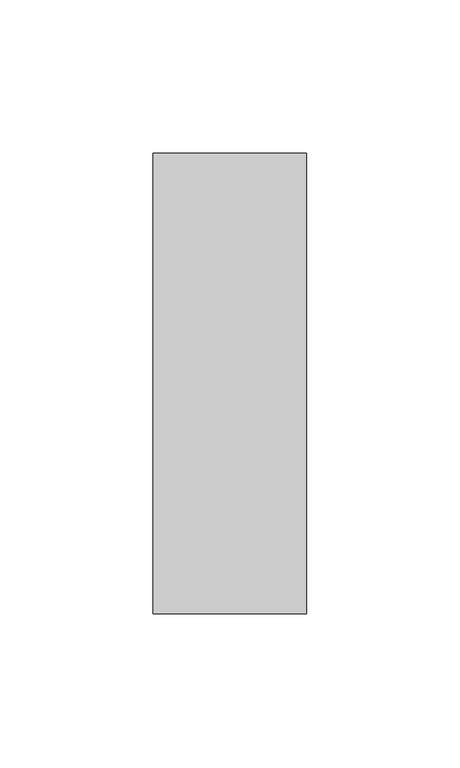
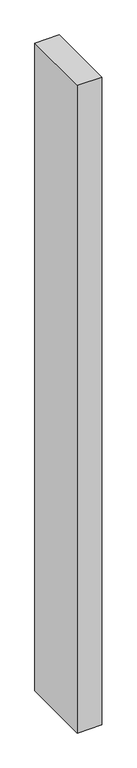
"""IFC4 building model written with IfcOpenShell, lengths in millimetres: member geometry, Прямоугольный импост : 50 мм x 150 мм."""

from ifc_helpers import new_model, si_unit, frame, origin, place, context, project, spatial, polyline, outline, extrude, source, transform, mapped, element, save


def member_80d7b263(model_context):
    return source(origin(), model_context, "Body", "SweptSolid", [
        extrude(outline(polyline([(25.0, 75.0), (25.0, -75.0), (-25.0, -75.0), (-25.0, 75.0), (25.0, 75.0)])), frame((0.0, 0.0, -1400.0), z_axis=(0.0, 0.0, 1.0), x_axis=(1.0, 0.0, 0.0)), (0.0, 0.0, 1.0), 1400.0),
    ])


if __name__ == "__main__":
    model = new_model("IFC4")
    model_context = context("Model", 3, world=origin())
    ifc_project = project(units=[si_unit("LENGTHUNIT", "METRE", prefix="MILLI")], contexts=[model_context])
    site = spatial("IfcSite", under=ifc_project)
    building = spatial("IfcBuilding", under=site)
    placement = place(None, origin())
    member_shape = member_80d7b263(model_context)
    element("IfcMember", 1, ObjectType="Прямоугольный импост : 50 мм x 150 мм", at=placement, inside=building, context=model_context, shape_type="MappedRepresentation", body=[
        mapped(member_shape, transform((0.0, 0.0, 0.0), x_axis=(1.0, 0.0, 0.0), y_axis=(0.0, 1.0, 0.0), z_axis=(0.0, 0.0, 1.0))),
    ])
    save(model, "model.ifc")
